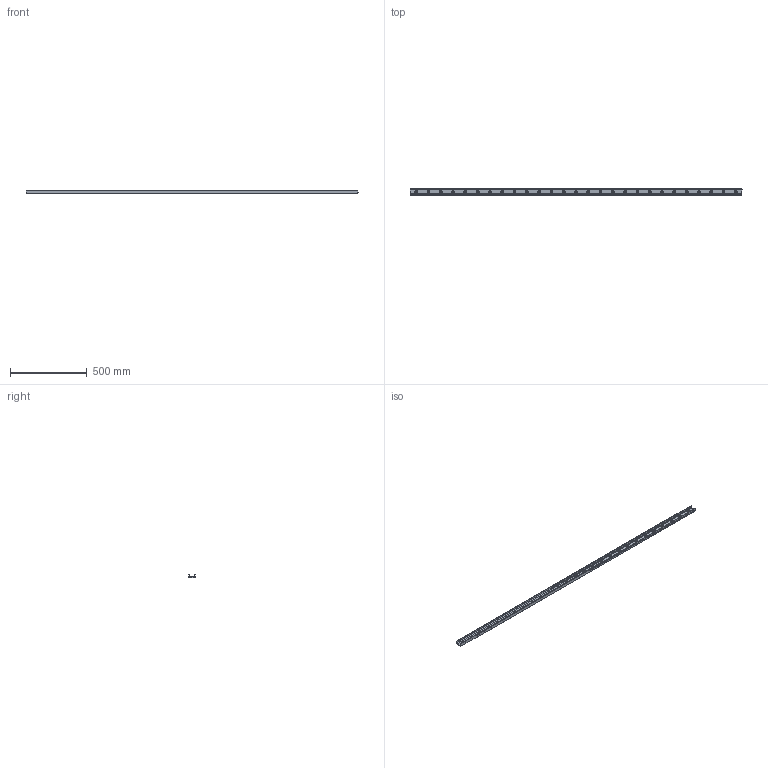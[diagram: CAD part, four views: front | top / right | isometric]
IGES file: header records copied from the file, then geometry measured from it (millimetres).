
Start section: SolidWorks IGES file using analytic representation for surfaces
Global section: file name: C:\Users\IanO\Desktop\43\L1943.ULC43_v2_20180121_IGES\L1943.ULC43-2160.igs; native system: SolidWorks 2017; preprocessor: SolidWorks 2017; author: IanO; date: 190121.084926; units: millimetre
Bounding box: 2160 x 43 x 21 mm (x, y, z)
Surface area: 338910.9 mm2 (no closed solid volume)
Topology: 0 solids, 0 shells, 161 faces, 4182 edges, 4182 vertices
Faces by surface type: revolution 121, bspline 40
